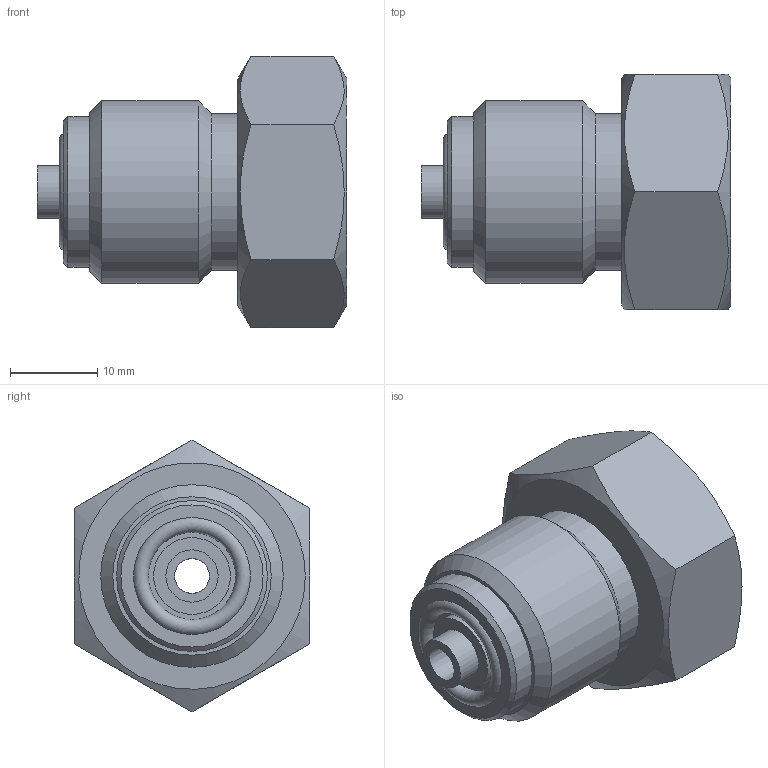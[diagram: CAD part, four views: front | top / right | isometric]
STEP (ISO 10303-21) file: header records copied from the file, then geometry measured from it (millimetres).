
FILE_DESCRIPTION(('STEP AP214'), '1');
FILE_NAME('TA.01-M24-G12-SS4_1', '2025-02-18T11:40:37', ('Admin'), (''), 'ASCON STEP Converter 1.6', 'ASCON Math Kernel', '');
FILE_SCHEMA(('AUTOMOTIVE_DESIGN { 1 0 10303 214 3 1 1}'));
Length unit declared in the file: millimetre
Bounding box: 35.5 x 27 x 31.18 mm (x, y, z)
Volume: 9629.9 mm3; surface area: 5407.9 mm2
Topology: 1 solids, 1 shells, 97 faces, 231 edges, 152 vertices
Faces by surface type: plane 49, extrusion 27, cylinder 10, cone 9, torus 2
Full cylindrical faces by diameter (mm): 6 x1, 8.81 x1, 13.41 x1, 16.4 x1, 17.31 x1, 18 x1, 20.955 x1, 21 x1, 22.917 x1, 24.5 x1
Entity records: 4209 total; most frequent: CARTESIAN_POINT 1322, ORIENTED_EDGE 420, DIRECTION 343, EDGE_CURVE 210, VERTEX_POINT 152, EDGE_LOOP 136, VECTOR 135, LINE 108
